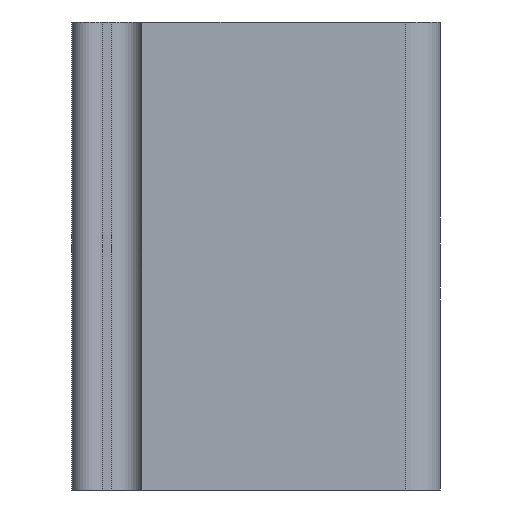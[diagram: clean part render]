
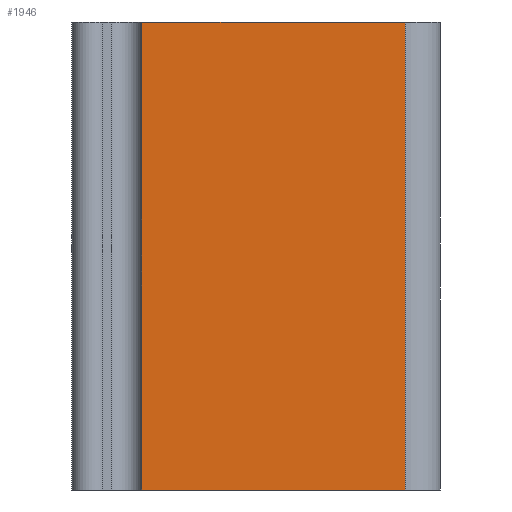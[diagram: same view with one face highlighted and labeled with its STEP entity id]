
A CAD part, front view. The second image highlights one B-rep face of the part: STEP entity #1946.
In plain terms, the highlighted planar face has unit normal (0, -1, 0).
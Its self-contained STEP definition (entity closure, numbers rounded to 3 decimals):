
#16 = DIRECTION ( 'NONE',  ( 1., 0., 0. ) ) ;
#39 = DIRECTION ( 'NONE',  ( 0., 0., 1. ) ) ;
#46 = VECTOR ( 'NONE', #16, 1000. ) ;
#60 = CARTESIAN_POINT ( 'NONE',  ( 22.5, -34.4, -20. ) ) ;
#344 = CARTESIAN_POINT ( 'NONE',  ( 0., -34.4, -20. ) ) ;
#398 = DIRECTION ( 'NONE',  ( 0., 0., -1. ) ) ;
#498 = LINE ( 'NONE', #2127, #46 ) ;
#526 = ORIENTED_EDGE ( 'NONE', *, *, #1547, .F. ) ;
#569 = CARTESIAN_POINT ( 'NONE',  ( 0., -34.4, 20. ) ) ;
#656 = VECTOR ( 'NONE', #1646, 1000. ) ;
#753 = VERTEX_POINT ( 'NONE', #569 ) ;
#765 = EDGE_CURVE ( 'NONE', #753, #1160, #498, .T. ) ;
#845 = DIRECTION ( 'NONE',  ( 1., 0., 0. ) ) ;
#894 = ORIENTED_EDGE ( 'NONE', *, *, #765, .F. ) ;
#947 = CARTESIAN_POINT ( 'NONE',  ( 0., -34.4, 20. ) ) ;
#1007 = VECTOR ( 'NONE', #845, 1000. ) ;
#1100 = CARTESIAN_POINT ( 'NONE',  ( 22.5, -34.4, 20. ) ) ;
#1111 = AXIS2_PLACEMENT_3D ( 'NONE', #1100, #1287, #39 ) ;
#1123 = LINE ( 'NONE', #2007, #656 ) ;
#1153 = LINE ( 'NONE', #947, #1958 ) ;
#1160 = VERTEX_POINT ( 'NONE', #2076 ) ;
#1164 = EDGE_LOOP ( 'NONE', ( #1170, #526, #894, #1612 ) ) ;
#1170 = ORIENTED_EDGE ( 'NONE', *, *, #2163, .T. ) ;
#1287 = DIRECTION ( 'NONE',  ( 0., 1., 0. ) ) ;
#1427 = FACE_OUTER_BOUND ( 'NONE', #1164, .T. ) ;
#1547 = EDGE_CURVE ( 'NONE', #1160, #2031, #1123, .T. ) ;
#1612 = ORIENTED_EDGE ( 'NONE', *, *, #1914, .T. ) ;
#1646 = DIRECTION ( 'NONE',  ( 0., 0., -1. ) ) ;
#1685 = VERTEX_POINT ( 'NONE', #344 ) ;
#1860 = LINE ( 'NONE', #2255, #1007 ) ;
#1914 = EDGE_CURVE ( 'NONE', #753, #1685, #1153, .T. ) ;
#1946 = ADVANCED_FACE ( 'NONE', ( #1427 ), #2178, .F. ) ;
#1958 = VECTOR ( 'NONE', #398, 1000. ) ;
#2007 = CARTESIAN_POINT ( 'NONE',  ( 22.5, -34.4, 20. ) ) ;
#2031 = VERTEX_POINT ( 'NONE', #60 ) ;
#2076 = CARTESIAN_POINT ( 'NONE',  ( 22.5, -34.4, 20. ) ) ;
#2127 = CARTESIAN_POINT ( 'NONE',  ( 22.5, -34.4, 20. ) ) ;
#2163 = EDGE_CURVE ( 'NONE', #1685, #2031, #1860, .T. ) ;
#2178 = PLANE ( 'NONE',  #1111 ) ;
#2255 = CARTESIAN_POINT ( 'NONE',  ( 22.5, -34.4, -20. ) ) ;
